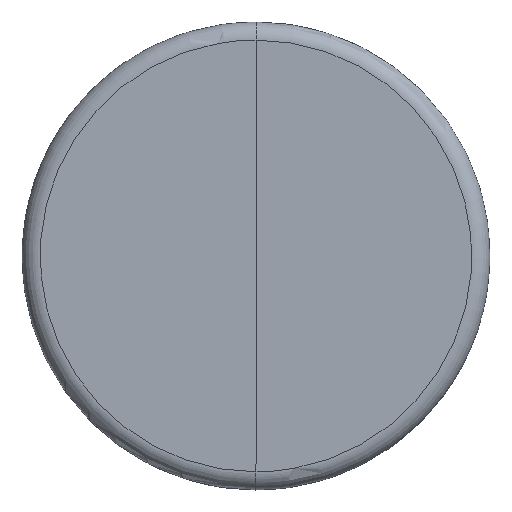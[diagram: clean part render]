
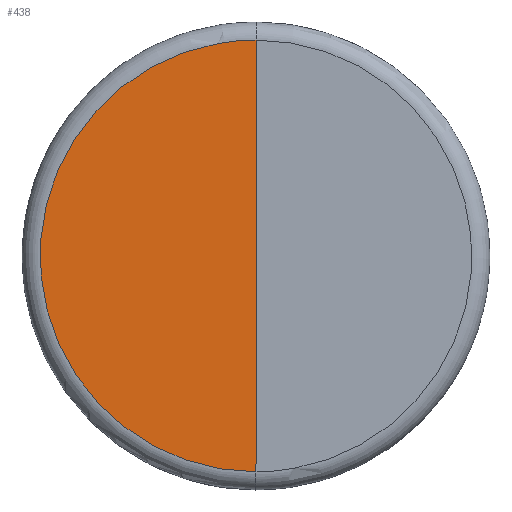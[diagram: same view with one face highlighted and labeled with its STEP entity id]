
A CAD part, top view. The second image highlights one B-rep face of the part: STEP entity #438.
In plain terms, the highlighted planar face has unit normal (0, 0, 1).
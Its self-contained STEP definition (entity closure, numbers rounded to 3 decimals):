
#58=FACE_OUTER_BOUND('',#92,.T.);
#92=EDGE_LOOP('',(#294,#295));
#126=B_SPLINE_CURVE_WITH_KNOTS('',3,(#669,#670,#671,#672,#673,#674,#675,
#676,#677,#678,#679,#680,#681,#682,#683),.UNSPECIFIED.,.F.,.F.,(4,1,1,1,
1,1,1,1,1,1,1,1,4),(0.,0.083,0.167,0.25,0.333,
0.417,0.5,0.583,0.667,0.75,0.833,
0.917,1.),.UNSPECIFIED.);
#148=LINE('',#668,#172);
#172=VECTOR('',#535,304.8);
#196=VERTEX_POINT('',#666);
#197=VERTEX_POINT('',#667);
#230=EDGE_CURVE('',#196,#197,#148,.T.);
#231=EDGE_CURVE('',#197,#196,#126,.T.);
#294=ORIENTED_EDGE('',*,*,#230,.F.);
#295=ORIENTED_EDGE('',*,*,#231,.F.);
#422=PLANE('',#476);
#438=ADVANCED_FACE('',(#58),#422,.T.);
#476=AXIS2_PLACEMENT_3D('',#665,#533,#534);
#533=DIRECTION('center_axis',(0.,0.,1.));
#534=DIRECTION('ref_axis',(0.,1.,0.));
#535=DIRECTION('',(0.,1.,0.));
#665=CARTESIAN_POINT('Origin',(0.,0.,60.861));
#666=CARTESIAN_POINT('',(0.,-162.146,60.861));
#667=CARTESIAN_POINT('',(0.,162.146,60.861));
#668=CARTESIAN_POINT('',(0.,-162.146,60.861));
#669=CARTESIAN_POINT('Ctrl Pts',(0.,162.146,
60.861));
#670=CARTESIAN_POINT('Ctrl Pts',(14.161,162.19,60.861));
#671=CARTESIAN_POINT('Ctrl Pts',(42.443,158.4,60.861));
#672=CARTESIAN_POINT('Ctrl Pts',(82.006,142.041,60.861));
#673=CARTESIAN_POINT('Ctrl Pts',(115.971,115.97,60.861));
#674=CARTESIAN_POINT('Ctrl Pts',(142.036,82.005,60.861));
#675=CARTESIAN_POINT('Ctrl Pts',(158.42,42.448,60.861));
#676=CARTESIAN_POINT('Ctrl Pts',(164.008,0.,
60.861));
#677=CARTESIAN_POINT('Ctrl Pts',(158.42,-42.448,60.861));
#678=CARTESIAN_POINT('Ctrl Pts',(142.036,-82.005,60.861));
#679=CARTESIAN_POINT('Ctrl Pts',(115.971,-115.97,60.861));
#680=CARTESIAN_POINT('Ctrl Pts',(82.006,-142.041,60.861));
#681=CARTESIAN_POINT('Ctrl Pts',(42.443,-158.4,60.861));
#682=CARTESIAN_POINT('Ctrl Pts',(14.161,-162.19,60.861));
#683=CARTESIAN_POINT('Ctrl Pts',(0.,-162.146,
60.861));
